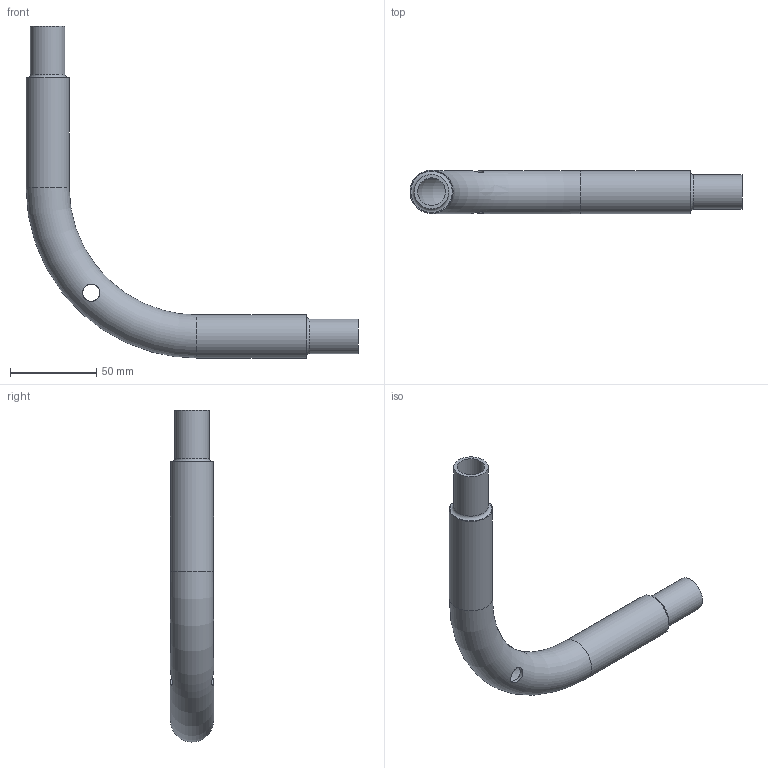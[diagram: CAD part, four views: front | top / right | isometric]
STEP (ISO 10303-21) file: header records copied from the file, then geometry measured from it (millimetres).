
FILE_DESCRIPTION((''),'2;1');
FILE_NAME('S:\Användarkataloger\AndreasA\Mina Inventor filer\Räcken\STEP\hörnskarv_25.stp','2010-09-07T13:43:18',('AndreasA'),(''),'Autodesk Inventor 2011','Autodesk Inventor 2011','');
FILE_SCHEMA(('AUTOMOTIVE_DESIGN { 1 0 10303 214 1 1 1 1 }'));
Length unit declared in the file: millimetre
Products named in the file (1): hörnskarv_25
Bounding box: 192.5 x 25 x 192.5 mm (x, y, z)
Volume: 44782.2 mm3; surface area: 45162.8 mm2
Topology: 1 solids, 1 shells, 20 faces, 39 edges, 23 vertices
Faces by surface type: cylinder 10, torus 6, plane 4
Full cylindrical faces by diameter (mm): 10 x2, 16 x2, 20 x2, 21 x2, 25 x2
Entity records: 656 total; most frequent: CARTESIAN_POINT 271, DIRECTION 78, ORIENTED_EDGE 44, EDGE_LOOP 44, AXIS2_PLACEMENT_3D 39, FACE_BOUND 24, VERTEX_POINT 22, EDGE_CURVE 22
